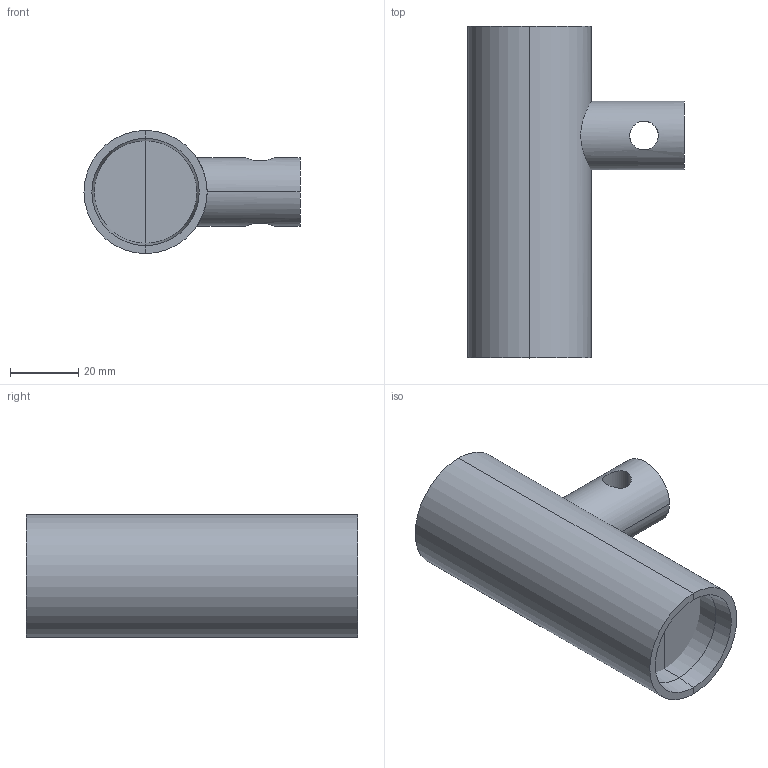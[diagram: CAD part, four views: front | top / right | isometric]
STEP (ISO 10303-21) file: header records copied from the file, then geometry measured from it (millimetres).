
FILE_DESCRIPTION(/* description */ (''),/* implementation_level */ '2;1');
FILE_NAME(/* name */ 'clap_projector',/* time_stamp */ '2026-05-14T08:19:40+02:00',/* author */ (''),/* organization */ (''),/* preprocessor_version */ 'ST-DEVELOPER v19.2',/* originating_system */ 'Rhino 8.30',/* authorisation */ '');
FILE_SCHEMA (('CONFIG_CONTROL_DESIGN'));
Length unit declared in the file: millimetre
Products named in the file (1): Document
Bounding box: 63.17 x 97 x 36 mm (x, y, z)
Volume: 10670.2 mm3; surface area: 21604.2 mm2
Topology: 1 solids, 17 shells, 29 faces, 83 edges, 72 vertices
Faces by surface type: plane 13, cylinder 12, bspline 4
Entity records: 1770 total; most frequent: CARTESIAN_POINT 762, ORIENTED_EDGE 104, DIRECTION 99, EDGE_CURVE 83, VERTEX_POINT 72, AXIS2_PLACEMENT_3D 62, B_SPLINE_CURVE_WITH_KNOTS 49, TRIMMED_CURVE 34
